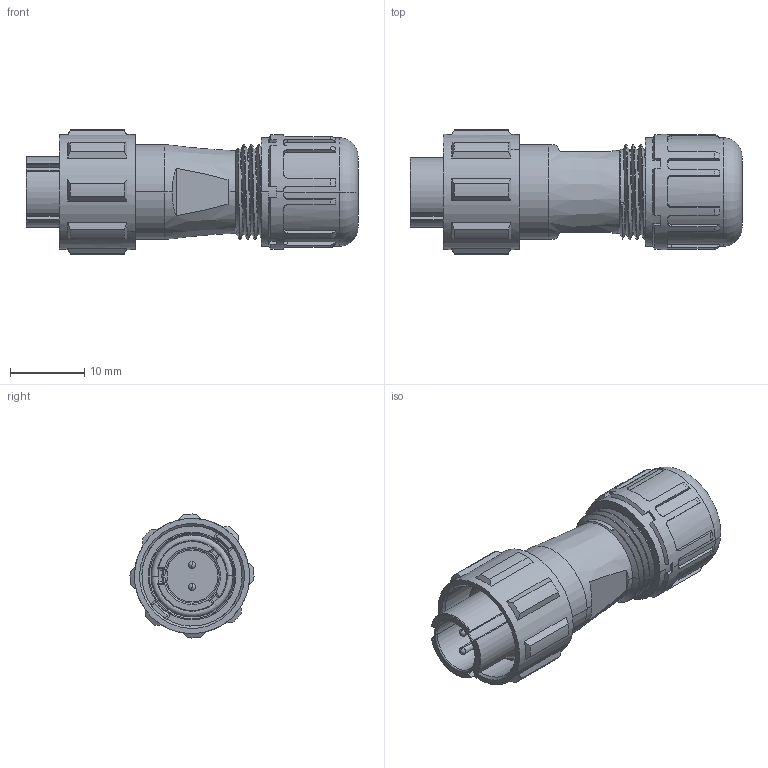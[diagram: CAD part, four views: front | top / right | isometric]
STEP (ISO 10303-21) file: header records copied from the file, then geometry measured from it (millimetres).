
FILE_DESCRIPTION((''),'2;1');
FILE_NAME('SY','2021-03-20T',('Administrator'),(''),'CREO PARAMETRIC BY PTC INC, 2016130','CREO PARAMETRIC BY PTC INC, 2016130','');
FILE_SCHEMA(('AUTOMOTIVE_DESIGN { 1 0 10303 214 1 1 1 1 }'));
Length unit declared in the file: millimetre
Products named in the file (1): SY
Bounding box: 44.7 x 16.7 x 16.7 mm (x, y, z)
Volume: 5660.8 mm3; surface area: 3676.2 mm2
Topology: 1 solids, 2 shells, 293 faces, 814 edges, 530 vertices
Faces by surface type: plane 122, cylinder 89, cone 36, torus 28, bspline 10, sphere 8
Entity records: 11290 total; most frequent: CARTESIAN_POINT 3904, ORIENTED_EDGE 1608, DIRECTION 1473, EDGE_CURVE 804, AXIS2_PLACEMENT_3D 576, VERTEX_POINT 530, VECTOR 321, LINE 321
